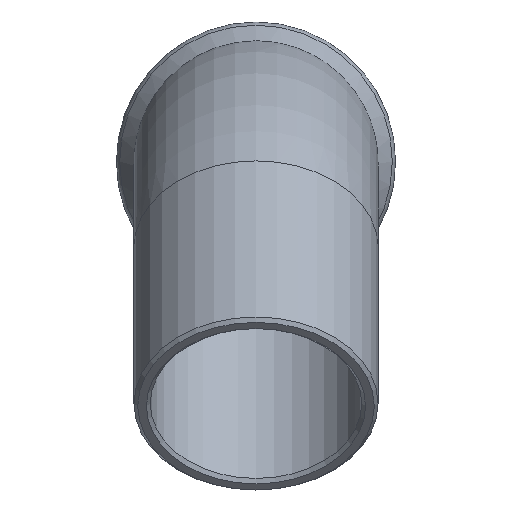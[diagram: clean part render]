
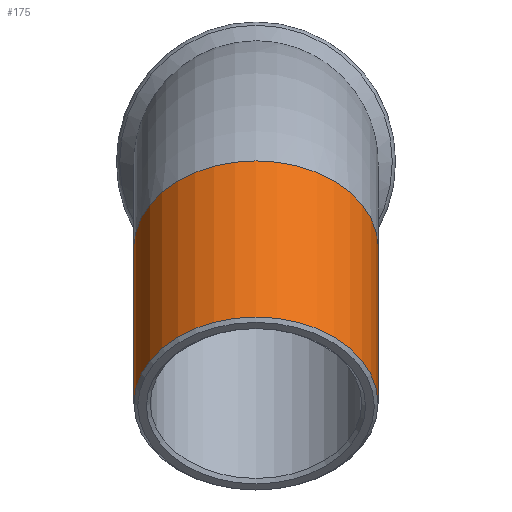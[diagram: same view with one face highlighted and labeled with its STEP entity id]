
A CAD part, top view. The second image highlights one B-rep face of the part: STEP entity #175.
In plain terms, the highlighted cylindrical face has radius 6.35 mm (diameter 12.7 mm), a full revolution.
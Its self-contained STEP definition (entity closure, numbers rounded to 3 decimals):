
#144=CARTESIAN_POINT('',(-6.35,2.687,18.95));
#145=VERTEX_POINT('',#144);
#146=CARTESIAN_POINT('',(0.0,2.687,18.95));
#147=DIRECTION('',(0.0,-0.707,0.707));
#148=DIRECTION('',(1.0,0.0,0.0));
#149=AXIS2_PLACEMENT_3D('',#146,#147,#148);
#150=CIRCLE('',#149,6.35);
#151=EDGE_CURVE('',#145,#145,#150,.T.);
#156=CARTESIAN_POINT('',(0.0,10.819,10.819));
#157=DIRECTION('',(0.0,-0.707,0.707));
#158=DIRECTION('',(1.0,0.0,0.0));
#159=AXIS2_PLACEMENT_3D('',#156,#157,#158);
#160=CYLINDRICAL_SURFACE('',#159,6.35);
#161=CARTESIAN_POINT('',(6.35,10.819,10.819));
#162=VERTEX_POINT('',#161);
#163=CARTESIAN_POINT('',(0.0,10.819,10.819));
#164=DIRECTION('',(0.0,0.707,-0.707));
#165=DIRECTION('',(-1.0,0.0,0.0));
#166=AXIS2_PLACEMENT_3D('',#163,#164,#165);
#167=CIRCLE('',#166,6.35);
#168=EDGE_CURVE('',#162,#162,#167,.T.);
#169=ORIENTED_EDGE('',*,*,#168,.F.);
#170=EDGE_LOOP('',(#169));
#171=FACE_OUTER_BOUND('',#170,.T.);
#172=ORIENTED_EDGE('',*,*,#151,.F.);
#173=EDGE_LOOP('',(#172));
#174=FACE_BOUND('',#173,.T.);
#175=ADVANCED_FACE('',(#171,#174),#160,.T.);
